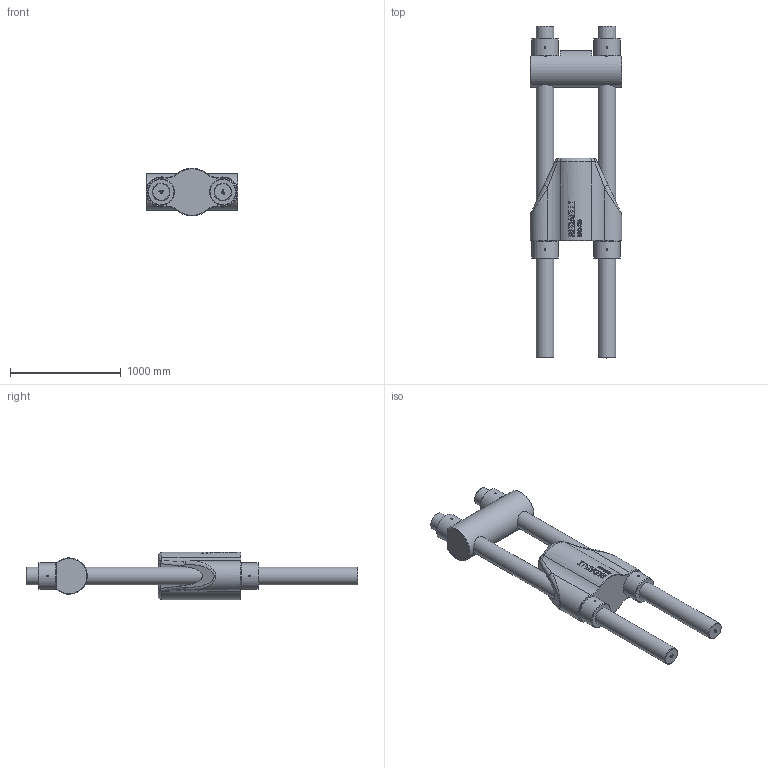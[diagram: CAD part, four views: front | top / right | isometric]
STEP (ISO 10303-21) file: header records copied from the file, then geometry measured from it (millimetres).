
FILE_DESCRIPTION(/* description */ (''),/* implementation_level */ '2;1');
FILE_NAME(/* name */ 'D:\Clienti\Redaelli (inventor)\BRC\STEP\Arrangemet\BRC136 72 111 0.stp',/* time_stamp */ '2021-05-08T08:46:49+02:00',/* author */ ('fabri'),/* organization */ (''),/* preprocessor_version */ 'ST-DEVELOPER v16.13',/* originating_system */ 'Autodesk Inventor 2018',/* authorisation */ '');
FILE_SCHEMA (('AUTOMOTIVE_DESIGN { 1 0 10303 214 3 1 1 }'));
Length unit declared in the file: millimetre
Products named in the file (5): BRC020 72 111 0; BRC020 71 112 0; BRC020 71 114 0_ROD; BRC020 71 113 0; BRC020 71 114 0_NUT
Assembly tree (8 placements, depth 2):
  BRC020 72 111 0
    BRC020 71 112 0
    BRC020 71 114 0_ROD  x2
    BRC020 71 113 0
    BRC020 71 114 0_NUT  x4
Bounding box: 830 x 3000 x 429.11 mm (x, y, z)
Volume: 325953810.8 mm3; surface area: 7438118.1 mm2
Topology: 8 solids, 8 shells, 1628 faces, 4431 edges, 2943 vertices
Faces by surface type: plane 774, bspline 731, cylinder 69, cone 30, torus 20, sphere 4
Full cylindrical faces by diameter (mm): 15 x16, 153.505 x4, 160 x2, 167 x4, 240 x4, 328 x1
Entity records: 32917 total; most frequent: CARTESIAN_POINT 12935, ORIENTED_EDGE 4778, DIRECTION 2799, EDGE_CURVE 2389, VERTEX_POINT 1592, LINE 1341, VECTOR 1341, EDGE_LOOP 997
